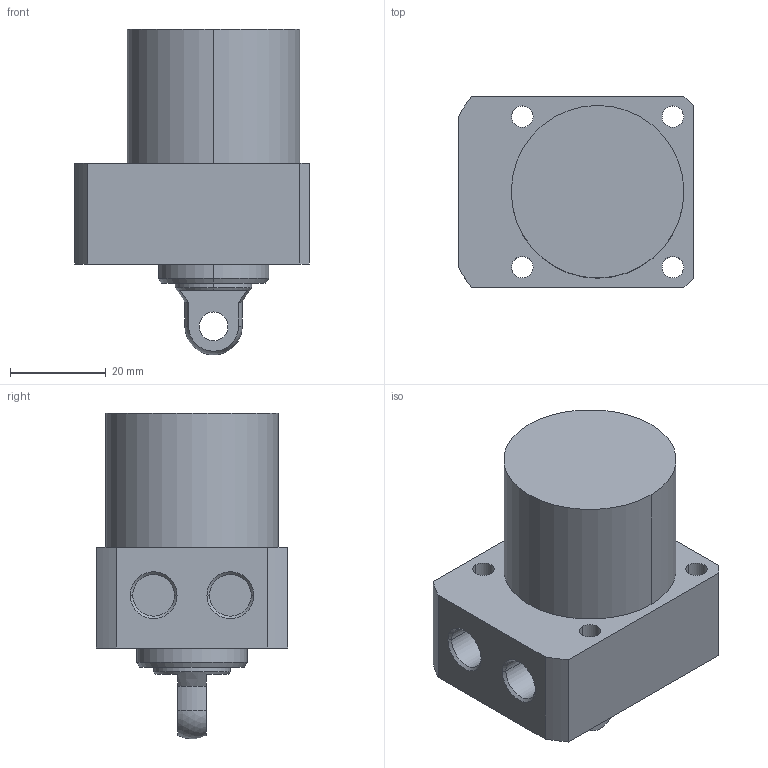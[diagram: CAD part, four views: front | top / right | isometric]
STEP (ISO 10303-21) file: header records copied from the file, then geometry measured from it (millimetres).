
FILE_DESCRIPTION((' '),'2;1');
FILE_NAME( 'TLLR-036CP-020.STEP.stp', '2025-10-24T16:35:48', (' '), ('--- Datakit www.datakit.com---'), ' Datakit CrossCadWare V2024.1 Dec 21 2023', 'Mastercam 2025', ' ');
FILE_SCHEMA(('AUTOMOTIVE_DESIGN { 1 0 10303 214 1 1 1 1 }'));
Length unit declared in the file: millimetre
Products named in the file (1): TLLR-036CP-020
Bounding box: 49 x 40 x 67.97 mm (x, y, z)
Volume: 69045.7 mm3; surface area: 13190.6 mm2
Topology: 1 solids, 1 shells, 55 faces, 157 edges, 111 vertices
Faces by surface type: cylinder 28, plane 18, cone 8, sphere 1
Entity records: 1924 total; most frequent: DIRECTION 360, CARTESIAN_POINT 336, ORIENTED_EDGE 314, EDGE_CURVE 157, AXIS2_PLACEMENT_3D 151, VERTEX_POINT 111, CIRCLE 95, EDGE_LOOP 72
